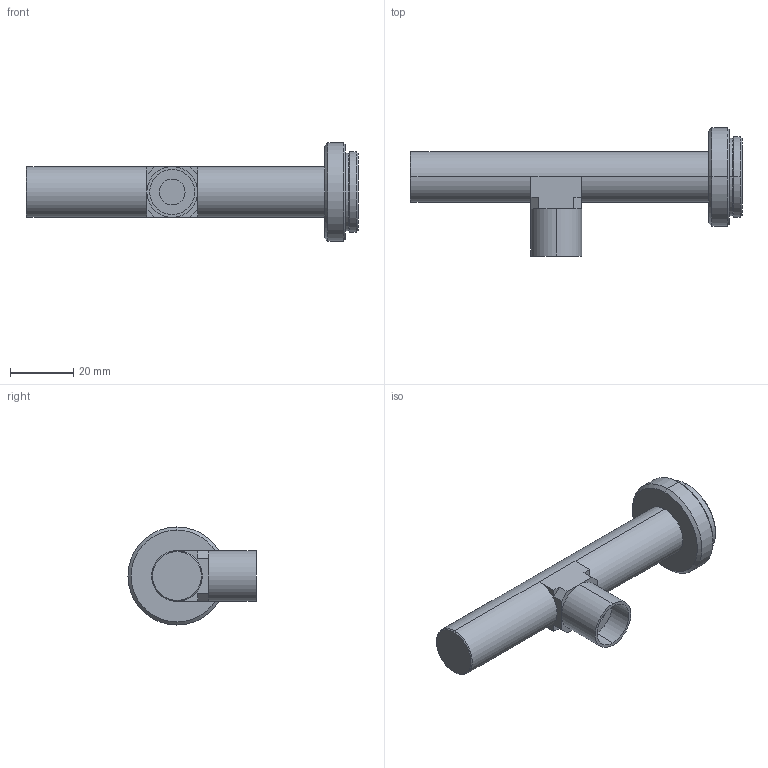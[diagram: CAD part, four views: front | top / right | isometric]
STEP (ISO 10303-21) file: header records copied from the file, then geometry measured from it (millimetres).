
FILE_DESCRIPTION (( 'STEP AP214' ), '1' );
FILE_NAME ('VS-TC5-110CO.STEP', '2020-08-17T05:36:25', ( '' ), ( '' ), 'SwSTEP 2.0', 'SolidWorks 2020', '' );
FILE_SCHEMA (( 'AUTOMOTIVE_DESIGN' ));
Length unit declared in the file: millimetre
Products named in the file (1): VS-TC5-110CO
Bounding box: 104.9 x 40.5 x 31 mm (x, y, z)
Volume: 28148.7 mm3; surface area: 8675.3 mm2
Topology: 1 solids, 1 shells, 48 faces, 104 edges, 62 vertices
Faces by surface type: plane 23, cylinder 15, cone 10
Entity records: 1348 total; most frequent: DIRECTION 242, CARTESIAN_POINT 215, ORIENTED_EDGE 208, EDGE_CURVE 104, AXIS2_PLACEMENT_3D 89, LINE 64, VECTOR 64, VERTEX_POINT 62
